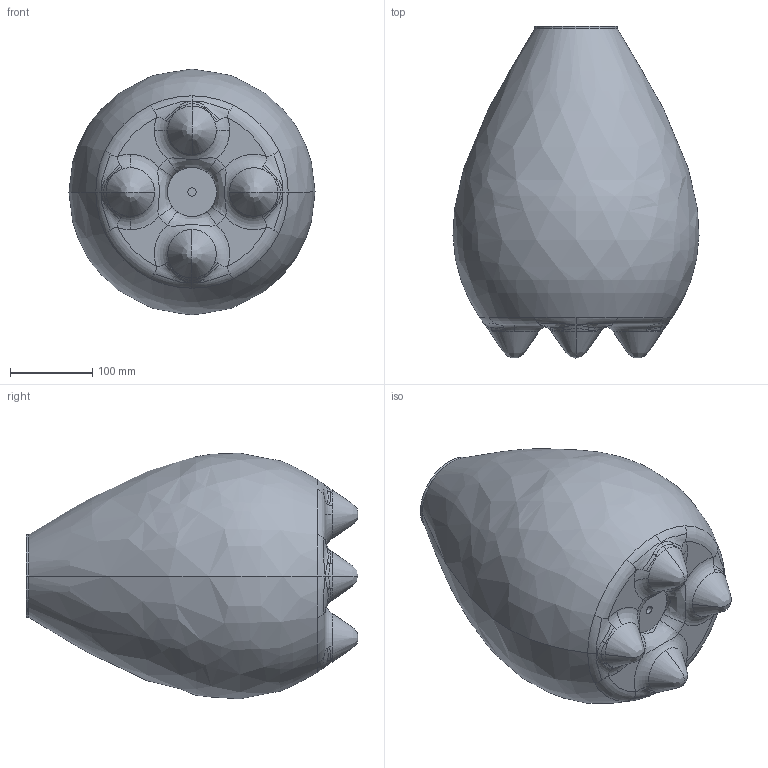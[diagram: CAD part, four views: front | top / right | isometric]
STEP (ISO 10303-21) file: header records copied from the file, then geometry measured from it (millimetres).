
FILE_DESCRIPTION (( 'STEP AP214' ), '1' );
FILE_NAME ('NAC133.STEP', '2023-07-20T15:20:22', ( '' ), ( '' ), 'SwSTEP 2.0', 'SolidWorks 2018', '' );
FILE_SCHEMA (( 'AUTOMOTIVE_DESIGN' ));
Length unit declared in the file: millimetre
Products named in the file (1): NAC133
Bounding box: 298.81 x 403 x 298.44 mm (x, y, z)
Volume: 17416638.4 mm3; surface area: 377207.3 mm2
Topology: 2 solids, 2 shells, 95 faces, 231 edges, 132 vertices
Faces by surface type: bspline 62, torus 16, cylinder 9, plane 8
Entity records: 13876 total; most frequent: CARTESIAN_POINT 12118, ORIENTED_EDGE 446, EDGE_CURVE 223, DIRECTION 207, B_SPLINE_CURVE_WITH_KNOTS 151, VERTEX_POINT 132, AXIS2_PLACEMENT_3D 101, EDGE_LOOP 97
